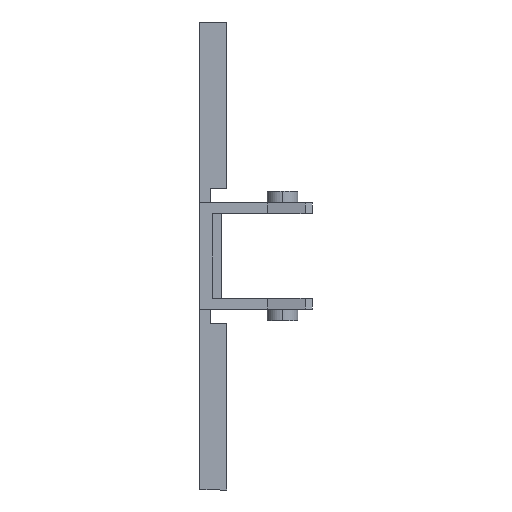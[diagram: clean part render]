
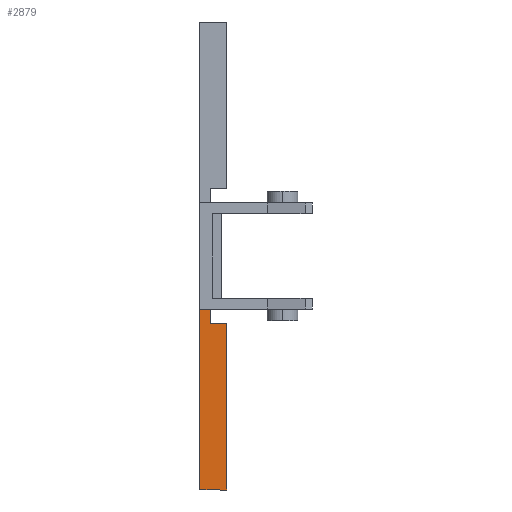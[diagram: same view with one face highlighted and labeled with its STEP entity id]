
A CAD part, front view. The second image highlights one B-rep face of the part: STEP entity #2879.
In plain terms, the highlighted planar face has unit normal (0, -1, 0).
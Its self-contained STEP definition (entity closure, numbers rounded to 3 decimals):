
#71 = VERTEX_POINT ( 'NONE', #230 ) ;
#73 = VERTEX_POINT ( 'NONE', #374 ) ;
#75 = VERTEX_POINT ( 'NONE', #376 ) ;
#76 = VERTEX_POINT ( 'NONE', #377 ) ;
#78 = VERTEX_POINT ( 'NONE', #369 ) ;
#79 = VERTEX_POINT ( 'NONE', #370 ) ;
#230 = CARTESIAN_POINT ( 'NONE',  ( 1.2, -9., -7.5 ) ) ;
#265 = DIRECTION ( 'NONE',  ( -1., 0., 0. ) ) ;
#271 = CARTESIAN_POINT ( 'NONE',  ( 1.2, -9., -7.5 ) ) ;
#369 = CARTESIAN_POINT ( 'NONE',  ( 0., -9., -5.9 ) ) ;
#370 = CARTESIAN_POINT ( 'NONE',  ( 0., -9., -26. ) ) ;
#374 = CARTESIAN_POINT ( 'NONE',  ( 3., -9., -26. ) ) ;
#376 = CARTESIAN_POINT ( 'NONE',  ( 1.2, -9., -5.9 ) ) ;
#377 = CARTESIAN_POINT ( 'NONE',  ( 3., -9., -7.5 ) ) ;
#480 = DIRECTION ( 'NONE',  ( 0., 0., 1. ) ) ;
#487 = CARTESIAN_POINT ( 'NONE',  ( 1.2, -9., -5. ) ) ;
#572 = CARTESIAN_POINT ( 'NONE',  ( 3., -9., -26. ) ) ;
#610 = DIRECTION ( 'NONE',  ( 1., 0., 0. ) ) ;
#684 = CARTESIAN_POINT ( 'NONE',  ( 1.2, -9., -5.9 ) ) ;
#685 = DIRECTION ( 'NONE',  ( 1., 0., 0. ) ) ;
#714 = CARTESIAN_POINT ( 'NONE',  ( 3., -9., -7.5 ) ) ;
#715 = DIRECTION ( 'NONE',  ( 0., 0., 1. ) ) ;
#776 = CARTESIAN_POINT ( 'NONE',  ( 0., -9., -26. ) ) ;
#777 = DIRECTION ( 'NONE',  ( 0., 0., -1. ) ) ;
#939 = DIRECTION ( 'NONE',  ( 0., 0., 1. ) ) ;
#942 = DIRECTION ( 'NONE',  ( 0., 1., 0. ) ) ;
#959 = PLANE ( 'NONE',  #1769 ) ;
#960 = CARTESIAN_POINT ( 'NONE',  ( 1.2, -9., -5. ) ) ;
#1246 = EDGE_LOOP ( 'NONE', ( #2492, #2496, #2497, #2498, #2499, #2500 ) ) ;
#1417 = EDGE_CURVE ( 'NONE', #76, #71, #2243, .T. ) ;
#1499 = EDGE_CURVE ( 'NONE', #71, #75, #2159, .T. ) ;
#1600 = EDGE_CURVE ( 'NONE', #79, #73, #2751, .T. ) ;
#1634 = EDGE_CURVE ( 'NONE', #78, #79, #2028, .T. ) ;
#1680 = EDGE_CURVE ( 'NONE', #73, #76, #1966, .T. ) ;
#1703 = EDGE_CURVE ( 'NONE', #78, #75, #1938, .T. ) ;
#1769 = AXIS2_PLACEMENT_3D ( 'NONE', #960, #942, #939 ) ;
#1937 = VECTOR ( 'NONE', #685, 1000. ) ;
#1938 = LINE ( 'NONE', #684, #1937 ) ;
#1965 = VECTOR ( 'NONE', #715, 1000. ) ;
#1966 = LINE ( 'NONE', #714, #1965 ) ;
#2028 = LINE ( 'NONE', #776, #2030 ) ;
#2030 = VECTOR ( 'NONE', #777, 1000. ) ;
#2072 = FACE_OUTER_BOUND ( 'NONE', #1246, .T. ) ;
#2120 = VECTOR ( 'NONE', #480, 1000. ) ;
#2159 = LINE ( 'NONE', #487, #2120 ) ;
#2243 = LINE ( 'NONE', #271, #2246 ) ;
#2246 = VECTOR ( 'NONE', #265, 1000. ) ;
#2492 = ORIENTED_EDGE ( 'NONE', *, *, #1703, .F. ) ;
#2496 = ORIENTED_EDGE ( 'NONE', *, *, #1634, .T. ) ;
#2497 = ORIENTED_EDGE ( 'NONE', *, *, #1600, .T. ) ;
#2498 = ORIENTED_EDGE ( 'NONE', *, *, #1680, .T. ) ;
#2499 = ORIENTED_EDGE ( 'NONE', *, *, #1417, .T. ) ;
#2500 = ORIENTED_EDGE ( 'NONE', *, *, #1499, .T. ) ;
#2751 = LINE ( 'NONE', #572, #2752 ) ;
#2752 = VECTOR ( 'NONE', #610, 1000. ) ;
#2879 = ADVANCED_FACE ( 'NONE', ( #2072 ), #959, .F. ) ;
